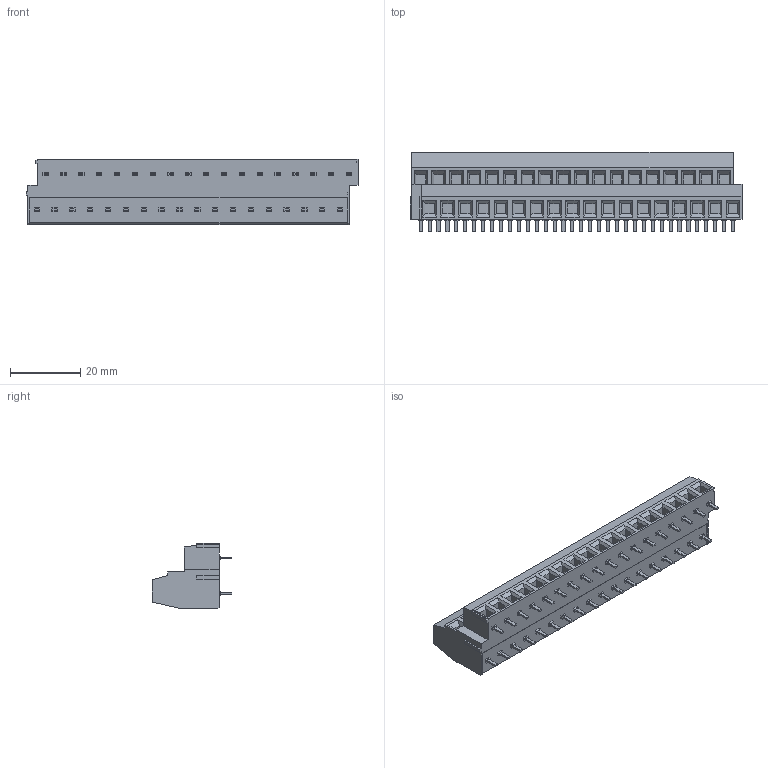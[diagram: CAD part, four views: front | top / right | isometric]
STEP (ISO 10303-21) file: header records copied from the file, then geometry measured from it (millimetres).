
FILE_DESCRIPTION((''),'2;1');
FILE_NAME('398800536','2015-02-27T',('me'),(''),'PRO/ENGINEER BY PARAMETRIC TECHNOLOGY CORPORATION, 2011490','PRO/ENGINEER BY PARAMETRIC TECHNOLOGY CORPORATION, 2011490','');
FILE_SCHEMA(('CONFIG_CONTROL_DESIGN'));
Length unit declared in the file: inch
Products named in the file (1): 398800536
Bounding box: 94.49 x 22.61 x 18.54 mm (x, y, z)
Volume: 21034.3 mm3; surface area: 12183.9 mm2
Topology: 1 solids, 1 shells, 1393 faces, 3326 edges, 2206 vertices
Faces by surface type: plane 961, cylinder 252, torus 78, cone 72, bspline 30
Entity records: 40515 total; most frequent: CARTESIAN_POINT 7554, DIRECTION 7062, ORIENTED_EDGE 6398, EDGE_CURVE 3199, AXIS2_PLACEMENT_3D 2372, VECTOR 2318, LINE 2318, VERTEX_POINT 2024
